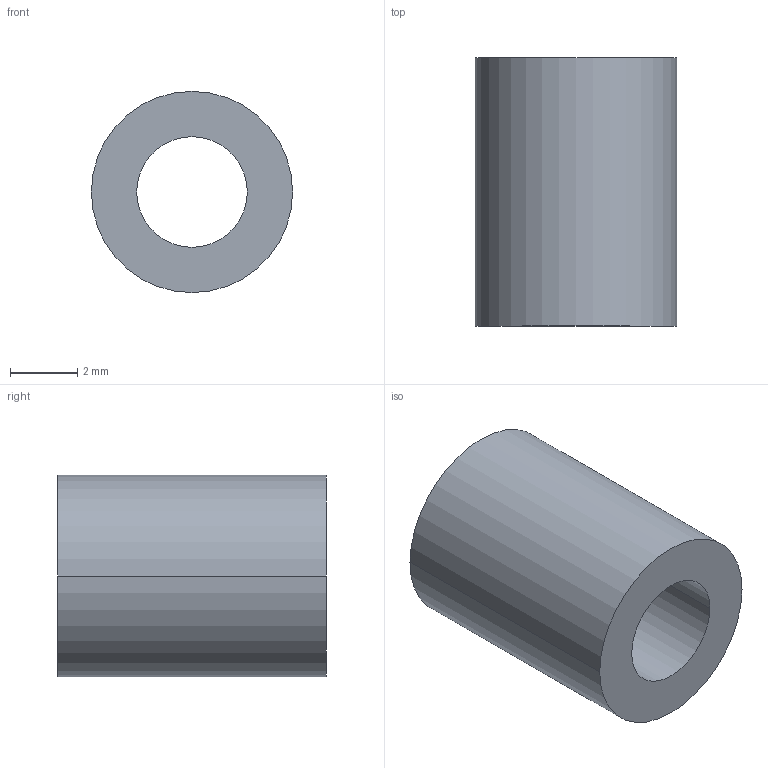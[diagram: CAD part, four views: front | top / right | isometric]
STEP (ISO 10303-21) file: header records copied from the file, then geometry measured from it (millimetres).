
FILE_DESCRIPTION (( 'STEP AP203' ), '1' );
FILE_NAME ('30800.WPP6B3.3.step', '2019-01-23T22:18:43', ( '' ), ( '' ), 'SwSTEP 2.0', 'SolidWorks 2017', '' );
FILE_SCHEMA (( 'CONFIG_CONTROL_DESIGN' ));
Length unit declared in the file: millimetre
Products named in the file (1): 30800.WPP6B3.3
Bounding box: 6 x 8 x 6 mm (x, y, z)
Volume: 155.2 mm3; surface area: 269.2 mm2
Topology: 1 solids, 1 shells, 8 faces, 16 edges, 10 vertices
Faces by surface type: cylinder 4, torus 2, plane 2
Entity records: 297 total; most frequent: DIRECTION 46, CARTESIAN_POINT 35, ORIENTED_EDGE 32, AXIS2_PLACEMENT_3D 21, EDGE_CURVE 16, CIRCLE 12, EDGE_LOOP 10, VERTEX_POINT 10
